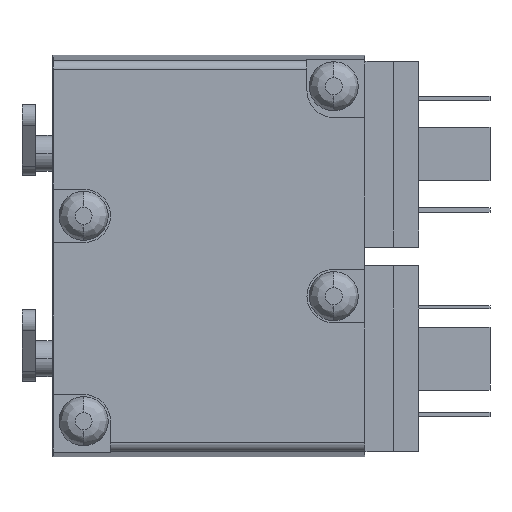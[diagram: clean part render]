
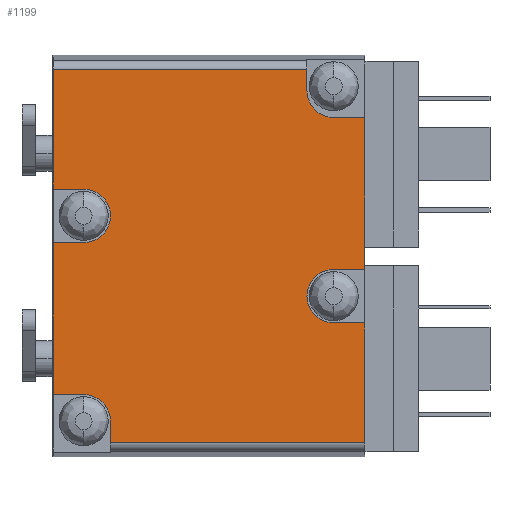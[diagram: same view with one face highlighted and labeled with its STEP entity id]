
A CAD part, left-side view. The second image highlights one B-rep face of the part: STEP entity #1199.
In plain terms, the highlighted planar face has unit normal (-1, 0, 0).
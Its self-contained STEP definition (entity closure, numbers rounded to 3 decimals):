
#24 = DIRECTION ( 'NONE',  ( 0., 0., 1. ) ) ;
#46 = ORIENTED_EDGE ( 'NONE', *, *, #4219, .T. ) ;
#58 = DIRECTION ( 'NONE',  ( 1., 0., 0. ) ) ;
#103 = VERTEX_POINT ( 'NONE', #769 ) ;
#113 = VECTOR ( 'NONE', #2601, 1000. ) ;
#260 = EDGE_CURVE ( 'NONE', #1237, #5172, #501, .T. ) ;
#290 = CARTESIAN_POINT ( 'NONE',  ( -57.95, 18., -65. ) ) ;
#308 = VECTOR ( 'NONE', #794, 1000. ) ;
#316 = VECTOR ( 'NONE', #1218, 1000. ) ;
#343 = VECTOR ( 'NONE', #4118, 1000. ) ;
#362 = VERTEX_POINT ( 'NONE', #4147 ) ;
#368 = EDGE_CURVE ( 'NONE', #2811, #1237, #4597, .T. ) ;
#377 = VECTOR ( 'NONE', #4067, 1000. ) ;
#386 = CARTESIAN_POINT ( 'NONE',  ( -57.95, 18., -42. ) ) ;
#451 = ORIENTED_EDGE ( 'NONE', *, *, #3134, .F. ) ;
#464 = LINE ( 'NONE', #4081, #3112 ) ;
#477 = DIRECTION ( 'NONE',  ( 0., -1., 0. ) ) ;
#497 = ORIENTED_EDGE ( 'NONE', *, *, #4110, .T. ) ;
#501 = LINE ( 'NONE', #2311, #343 ) ;
#518 = CARTESIAN_POINT ( 'NONE',  ( -57.95, 21., -39. ) ) ;
#538 = ORIENTED_EDGE ( 'NONE', *, *, #1452, .T. ) ;
#544 = EDGE_CURVE ( 'NONE', #5786, #1225, #5079, .T. ) ;
#570 = DIRECTION ( 'NONE',  ( 0., 0., 1. ) ) ;
#654 = ORIENTED_EDGE ( 'NONE', *, *, #4248, .T. ) ;
#695 = EDGE_CURVE ( 'NONE', #5356, #5253, #1238, .T. ) ;
#702 = VERTEX_POINT ( 'NONE', #2637 ) ;
#769 = CARTESIAN_POINT ( 'NONE',  ( -57.95, 18., -59. ) ) ;
#794 = DIRECTION ( 'NONE',  ( 0., 0., -1. ) ) ;
#795 = CARTESIAN_POINT ( 'NONE',  ( -57.95, 49.4, -56. ) ) ;
#810 = CIRCLE ( 'NONE', #3466, 3. ) ;
#916 = DIRECTION ( 'NONE',  ( 0., 0., -1. ) ) ;
#976 = VERTEX_POINT ( 'NONE', #5088 ) ;
#1063 = VERTEX_POINT ( 'NONE', #290 ) ;
#1089 = CARTESIAN_POINT ( 'NONE',  ( -57.95, 46., -56. ) ) ;
#1098 = VECTOR ( 'NONE', #4779, 1000. ) ;
#1106 = DIRECTION ( 'NONE',  ( 1., 0., 0. ) ) ;
#1159 = CARTESIAN_POINT ( 'NONE',  ( -57.95, 49.5, -50. ) ) ;
#1199 = ADVANCED_FACE ( 'NONE', ( #5857 ), #2773, .F. ) ;
#1218 = DIRECTION ( 'NONE',  ( 0., -1., 0. ) ) ;
#1225 = VERTEX_POINT ( 'NONE', #4905 ) ;
#1237 = VERTEX_POINT ( 'NONE', #518 ) ;
#1238 = LINE ( 'NONE', #3046, #308 ) ;
#1279 = VECTOR ( 'NONE', #5080, 1000. ) ;
#1293 = DIRECTION ( 'NONE',  ( 0., 1., 0. ) ) ;
#1316 = EDGE_CURVE ( 'NONE', #3180, #2116, #464, .T. ) ;
#1421 = DIRECTION ( 'NONE',  ( 0., 1., 0. ) ) ;
#1452 = EDGE_CURVE ( 'NONE', #4735, #4329, #3399, .T. ) ;
#1512 = AXIS2_PLACEMENT_3D ( 'NONE', #3361, #1106, #5487 ) ;
#1551 = DIRECTION ( 'NONE',  ( 0., 0., 1. ) ) ;
#1919 = CARTESIAN_POINT ( 'NONE',  ( -57.95, 49.4, -50. ) ) ;
#1936 = ORIENTED_EDGE ( 'NONE', *, *, #4047, .F. ) ;
#2049 = LINE ( 'NONE', #1159, #2485 ) ;
#2116 = VERTEX_POINT ( 'NONE', #4930 ) ;
#2240 = VECTOR ( 'NONE', #570, 1000. ) ;
#2311 = CARTESIAN_POINT ( 'NONE',  ( -57.95, 21., -39. ) ) ;
#2336 = EDGE_CURVE ( 'NONE', #362, #976, #5227, .T. ) ;
#2351 = LINE ( 'NONE', #4571, #1279 ) ;
#2457 = VECTOR ( 'NONE', #3410, 1000. ) ;
#2485 = VECTOR ( 'NONE', #3947, 1000. ) ;
#2491 = ORIENTED_EDGE ( 'NONE', *, *, #5146, .T. ) ;
#2539 = CARTESIAN_POINT ( 'NONE',  ( -57.95, 21., -36.642 ) ) ;
#2563 = EDGE_CURVE ( 'NONE', #5023, #5356, #810, .T. ) ;
#2572 = ORIENTED_EDGE ( 'NONE', *, *, #4707, .T. ) ;
#2601 = DIRECTION ( 'NONE',  ( 0., 0., 1. ) ) ;
#2637 = CARTESIAN_POINT ( 'NONE',  ( -57.95, 46., -50. ) ) ;
#2706 = CARTESIAN_POINT ( 'NONE',  ( -57.95, 43., -78.358 ) ) ;
#2725 = CARTESIAN_POINT ( 'NONE',  ( -57.95, 18., -62. ) ) ;
#2730 = CARTESIAN_POINT ( 'NONE',  ( -57.95, 49.5, -73. ) ) ;
#2773 = PLANE ( 'NONE',  #4002 ) ;
#2784 = EDGE_CURVE ( 'NONE', #103, #362, #3451, .T. ) ;
#2787 = CARTESIAN_POINT ( 'NONE',  ( -57.95, 46., -76. ) ) ;
#2810 = DIRECTION ( 'NONE',  ( 1., 0., 0. ) ) ;
#2811 = VERTEX_POINT ( 'NONE', #386 ) ;
#2825 = CARTESIAN_POINT ( 'NONE',  ( -57.95, 49.4, -78.358 ) ) ;
#2976 = CARTESIAN_POINT ( 'NONE',  ( -57.95, 49.4, -78.358 ) ) ;
#3046 = CARTESIAN_POINT ( 'NONE',  ( -57.95, 43., -76. ) ) ;
#3104 = DIRECTION ( 'NONE',  ( 1., 0., 0. ) ) ;
#3112 = VECTOR ( 'NONE', #24, 1000. ) ;
#3115 = LINE ( 'NONE', #2730, #4089 ) ;
#3134 = EDGE_CURVE ( 'NONE', #5533, #4329, #3796, .T. ) ;
#3176 = CARTESIAN_POINT ( 'NONE',  ( -57.95, 49.4, -36.642 ) ) ;
#3180 = VERTEX_POINT ( 'NONE', #3666 ) ;
#3216 = CARTESIAN_POINT ( 'NONE',  ( -57.95, 49.4, -78.358 ) ) ;
#3261 = LINE ( 'NONE', #3770, #5319 ) ;
#3296 = DIRECTION ( 'NONE',  ( 0., 0., -1. ) ) ;
#3327 = CARTESIAN_POINT ( 'NONE',  ( -57.95, 43., -76. ) ) ;
#3349 = CARTESIAN_POINT ( 'NONE',  ( -57.95, 18., -39. ) ) ;
#3361 = CARTESIAN_POINT ( 'NONE',  ( -57.95, 46., -53. ) ) ;
#3399 = LINE ( 'NONE', #5204, #2457 ) ;
#3410 = DIRECTION ( 'NONE',  ( 0., 1., 0. ) ) ;
#3412 = ORIENTED_EDGE ( 'NONE', *, *, #544, .F. ) ;
#3451 = LINE ( 'NONE', #5252, #316 ) ;
#3466 = AXIS2_PLACEMENT_3D ( 'NONE', #2787, #5136, #3296 ) ;
#3477 = CARTESIAN_POINT ( 'NONE',  ( -57.95, 49.4, -73. ) ) ;
#3514 = CIRCLE ( 'NONE', #3712, 3. ) ;
#3568 = ORIENTED_EDGE ( 'NONE', *, *, #2563, .T. ) ;
#3575 = ORIENTED_EDGE ( 'NONE', *, *, #368, .T. ) ;
#3666 = CARTESIAN_POINT ( 'NONE',  ( -57.95, 14.5, -78.358 ) ) ;
#3701 = EDGE_CURVE ( 'NONE', #702, #4735, #5480, .T. ) ;
#3712 = AXIS2_PLACEMENT_3D ( 'NONE', #2725, #58, #916 ) ;
#3770 = CARTESIAN_POINT ( 'NONE',  ( -57.95, 14.5, -42. ) ) ;
#3796 = LINE ( 'NONE', #5598, #113 ) ;
#3945 = EDGE_LOOP ( 'NONE', ( #654, #4479, #538, #451, #497, #3568, #4703, #2491, #3989, #4140, #2572, #4034, #4731, #46, #3575, #5399, #1936, #3412 ) ) ;
#3947 = DIRECTION ( 'NONE',  ( 0., -1., 0. ) ) ;
#3989 = ORIENTED_EDGE ( 'NONE', *, *, #1316, .T. ) ;
#4002 = AXIS2_PLACEMENT_3D ( 'NONE', #3216, #3104, #1293 ) ;
#4034 = ORIENTED_EDGE ( 'NONE', *, *, #2784, .T. ) ;
#4047 = EDGE_CURVE ( 'NONE', #1225, #5172, #4424, .T. ) ;
#4067 = DIRECTION ( 'NONE',  ( 0., -1., 0. ) ) ;
#4081 = CARTESIAN_POINT ( 'NONE',  ( -57.95, 14.5, -78.358 ) ) ;
#4089 = VECTOR ( 'NONE', #477, 1000. ) ;
#4110 = EDGE_CURVE ( 'NONE', #5533, #5023, #3115, .T. ) ;
#4118 = DIRECTION ( 'NONE',  ( 0., 0., 1. ) ) ;
#4140 = ORIENTED_EDGE ( 'NONE', *, *, #5068, .T. ) ;
#4147 = CARTESIAN_POINT ( 'NONE',  ( -57.95, 14.5, -59. ) ) ;
#4219 = EDGE_CURVE ( 'NONE', #976, #2811, #3261, .T. ) ;
#4248 = EDGE_CURVE ( 'NONE', #5786, #702, #2049, .T. ) ;
#4329 = VERTEX_POINT ( 'NONE', #795 ) ;
#4424 = LINE ( 'NONE', #3176, #377 ) ;
#4479 = ORIENTED_EDGE ( 'NONE', *, *, #3701, .T. ) ;
#4571 = CARTESIAN_POINT ( 'NONE',  ( -57.95, 14.5, -65. ) ) ;
#4597 = CIRCLE ( 'NONE', #4986, 3. ) ;
#4703 = ORIENTED_EDGE ( 'NONE', *, *, #695, .T. ) ;
#4707 = EDGE_CURVE ( 'NONE', #1063, #103, #3514, .T. ) ;
#4731 = ORIENTED_EDGE ( 'NONE', *, *, #2336, .T. ) ;
#4735 = VERTEX_POINT ( 'NONE', #1089 ) ;
#4777 = CARTESIAN_POINT ( 'NONE',  ( -57.95, 14.5, -78.358 ) ) ;
#4779 = DIRECTION ( 'NONE',  ( 0., -1., 0. ) ) ;
#4905 = CARTESIAN_POINT ( 'NONE',  ( -57.95, 49.4, -36.642 ) ) ;
#4930 = CARTESIAN_POINT ( 'NONE',  ( -57.95, 14.5, -65. ) ) ;
#4986 = AXIS2_PLACEMENT_3D ( 'NONE', #3349, #2810, #5123 ) ;
#5023 = VERTEX_POINT ( 'NONE', #5048 ) ;
#5048 = CARTESIAN_POINT ( 'NONE',  ( -57.95, 46., -73. ) ) ;
#5068 = EDGE_CURVE ( 'NONE', #2116, #1063, #2351, .T. ) ;
#5079 = LINE ( 'NONE', #2825, #2240 ) ;
#5080 = DIRECTION ( 'NONE',  ( 0., 1., 0. ) ) ;
#5088 = CARTESIAN_POINT ( 'NONE',  ( -57.95, 14.5, -42. ) ) ;
#5123 = DIRECTION ( 'NONE',  ( 0., 0., -1. ) ) ;
#5136 = DIRECTION ( 'NONE',  ( 1., 0., 0. ) ) ;
#5146 = EDGE_CURVE ( 'NONE', #5253, #3180, #5258, .T. ) ;
#5172 = VERTEX_POINT ( 'NONE', #2539 ) ;
#5204 = CARTESIAN_POINT ( 'NONE',  ( -57.95, 46., -56. ) ) ;
#5227 = LINE ( 'NONE', #4777, #5264 ) ;
#5252 = CARTESIAN_POINT ( 'NONE',  ( -57.95, 18., -59. ) ) ;
#5253 = VERTEX_POINT ( 'NONE', #2706 ) ;
#5258 = LINE ( 'NONE', #2976, #1098 ) ;
#5264 = VECTOR ( 'NONE', #1551, 1000. ) ;
#5319 = VECTOR ( 'NONE', #1421, 1000. ) ;
#5356 = VERTEX_POINT ( 'NONE', #3327 ) ;
#5399 = ORIENTED_EDGE ( 'NONE', *, *, #260, .T. ) ;
#5480 = CIRCLE ( 'NONE', #1512, 3. ) ;
#5487 = DIRECTION ( 'NONE',  ( 0., 0., -1. ) ) ;
#5533 = VERTEX_POINT ( 'NONE', #3477 ) ;
#5598 = CARTESIAN_POINT ( 'NONE',  ( -57.95, 49.4, -78.358 ) ) ;
#5786 = VERTEX_POINT ( 'NONE', #1919 ) ;
#5857 = FACE_OUTER_BOUND ( 'NONE', #3945, .T. ) ;
